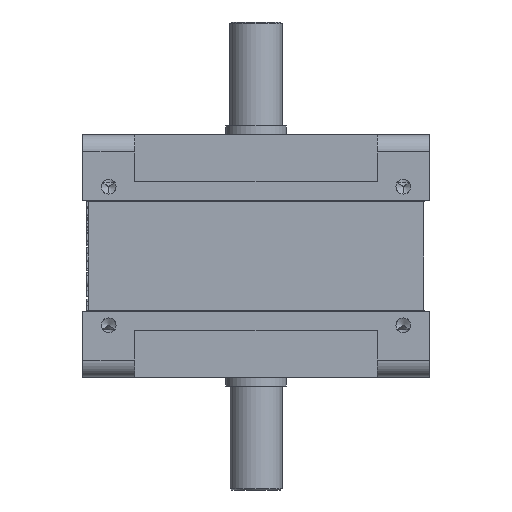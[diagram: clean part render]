
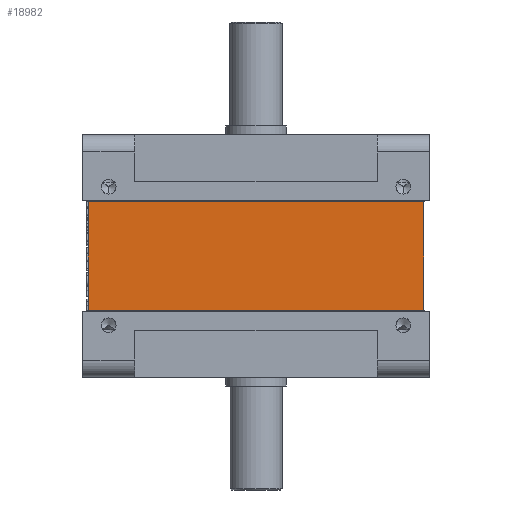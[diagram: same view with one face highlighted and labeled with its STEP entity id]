
A CAD part, front view. The second image highlights one B-rep face of the part: STEP entity #18982.
In plain terms, the highlighted planar face has unit normal (0, -1, 0).
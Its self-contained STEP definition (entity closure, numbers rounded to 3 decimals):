
#155 = ORIENTED_EDGE ( 'NONE', *, *, #17568, .F. ) ;
#378 = CARTESIAN_POINT ( 'NONE',  ( -96.832, -196.832, 31.2 ) ) ;
#508 = CARTESIAN_POINT ( 'NONE',  ( -96.832, -196.832, -32.2 ) ) ;
#2023 = EDGE_CURVE ( 'NONE', #36366, #13317, #44712, .T. ) ;
#3526 = LINE ( 'NONE', #43062, #13360 ) ;
#4695 = DIRECTION ( 'NONE',  ( 0., 0., 1. ) ) ;
#10326 = EDGE_CURVE ( 'NONE', #45107, #13317, #49522, .T. ) ;
#13317 = VERTEX_POINT ( 'NONE', #38235 ) ;
#13360 = VECTOR ( 'NONE', #47277, 1000. ) ;
#15054 = LINE ( 'NONE', #508, #24922 ) ;
#17038 = DIRECTION ( 'NONE',  ( 0., 0., -1. ) ) ;
#17568 = EDGE_CURVE ( 'NONE', #36366, #41357, #15054, .T. ) ;
#18982 = ADVANCED_FACE ( 'NONE', ( #41094 ), #19951, .T. ) ;
#19951 = PLANE ( 'NONE',  #52108 ) ;
#20243 = ORIENTED_EDGE ( 'NONE', *, *, #10326, .F. ) ;
#20787 = ORIENTED_EDGE ( 'NONE', *, *, #43430, .T. ) ;
#24922 = VECTOR ( 'NONE', #4695, 1000. ) ;
#28412 = DIRECTION ( 'NONE',  ( 0., 0., -1. ) ) ;
#28519 = CARTESIAN_POINT ( 'NONE',  ( -96.832, -196.832, -31.2 ) ) ;
#33586 = VECTOR ( 'NONE', #39245, 1000. ) ;
#36366 = VERTEX_POINT ( 'NONE', #28519 ) ;
#38235 = CARTESIAN_POINT ( 'NONE',  ( 96.832, -196.832, -31.2 ) ) ;
#38380 = VECTOR ( 'NONE', #17038, 1000. ) ;
#39245 = DIRECTION ( 'NONE',  ( 1., 0., 0. ) ) ;
#41094 = FACE_OUTER_BOUND ( 'NONE', #46245, .T. ) ;
#41357 = VERTEX_POINT ( 'NONE', #378 ) ;
#43062 = CARTESIAN_POINT ( 'NONE',  ( 100., -196.832, 31.2 ) ) ;
#43080 = ORIENTED_EDGE ( 'NONE', *, *, #2023, .T. ) ;
#43430 = EDGE_CURVE ( 'NONE', #45107, #41357, #3526, .T. ) ;
#43434 = CARTESIAN_POINT ( 'NONE',  ( -96.832, -196.832, -31.2 ) ) ;
#44234 = CARTESIAN_POINT ( 'NONE',  ( 96.832, -196.832, 31.2 ) ) ;
#44712 = LINE ( 'NONE', #43434, #33586 ) ;
#45107 = VERTEX_POINT ( 'NONE', #44234 ) ;
#46245 = EDGE_LOOP ( 'NONE', ( #20243, #20787, #155, #43080 ) ) ;
#46395 = CARTESIAN_POINT ( 'NONE',  ( 96.832, -196.832, -32.2 ) ) ;
#47277 = DIRECTION ( 'NONE',  ( -1., 0., 0. ) ) ;
#48902 = CARTESIAN_POINT ( 'NONE',  ( -96.832, -196.832, -32.2 ) ) ;
#49522 = LINE ( 'NONE', #46395, #38380 ) ;
#52108 = AXIS2_PLACEMENT_3D ( 'NONE', #48902, #53470, #28412 ) ;
#53470 = DIRECTION ( 'NONE',  ( 0., -1., 0. ) ) ;
